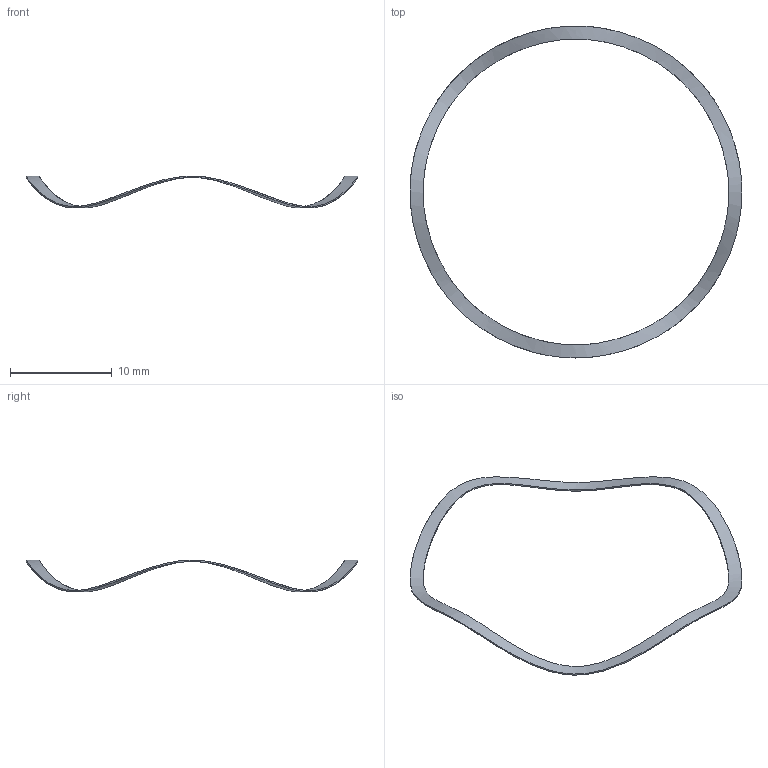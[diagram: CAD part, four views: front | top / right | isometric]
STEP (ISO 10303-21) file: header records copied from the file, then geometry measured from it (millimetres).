
FILE_DESCRIPTION(/* description */ ('Alibre Inc.'),/* implementation_level */ '2;1');
FILE_NAME(/* name */ 'export0',/* time_stamp */ '2009-10-21T22:13:17+02:00',/* author */ (''),/* organization */ (''),/* preprocessor_version */ 'ST-DEVELOPER v10',/* originating_system */ 'Alibre',/* authorisation */ '');
FILE_SCHEMA (('ALIBRE_SCHEMA','CONFIG_CONTROL_DESIGN'));
Length unit declared in the file: centimetre
Products named in the file (1): ID_1
Bounding box: 32.58 x 32.58 x 3.13 mm (x, y, z)
Volume: 17.5 mm3; surface area: 289.8 mm2
Topology: 1 solids, 1 shells, 4 faces, 8 edges, 4 vertices
Faces by surface type: bspline 4
Entity records: 1549 total; most frequent: CARTESIAN_POINT 631, CONSTRAINTPAIRUV 94, REFERENCEDEPENDENTUV 69, REFERENCEPOINTUV 64, DIRECTION 47, BLOCKPRIMITIVE 41, VECTOR 41, INTEGERVALUEPAIR 32
